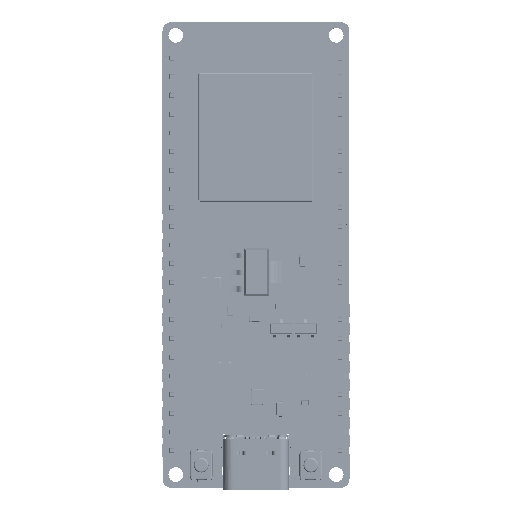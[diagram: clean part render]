
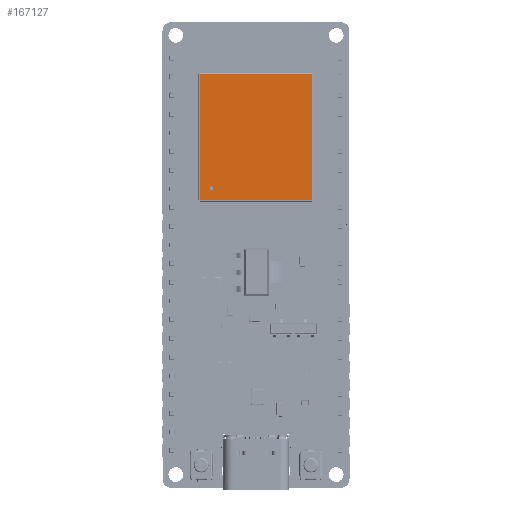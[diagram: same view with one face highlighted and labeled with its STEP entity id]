
A CAD part, top view. The second image highlights one B-rep face of the part: STEP entity #167127.
In plain terms, the highlighted planar face has unit normal (0, 0, 1).
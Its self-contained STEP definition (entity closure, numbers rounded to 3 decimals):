
#166013=CARTESIAN_POINT('',(-6.03,-6.91,2.3));
#166014=DIRECTION('',(0.,0.,-1.));
#166015=DIRECTION('',(-1.,0.,0.));
#166016=AXIS2_PLACEMENT_3D('',#166013,#166014,#166015);
#166021=CARTESIAN_POINT('',(-6.03,-6.91,2.3));
#166022=DIRECTION('',(0.,0.,-1.));
#166023=DIRECTION('',(1.,0.,0.));
#166024=AXIS2_PLACEMENT_3D('',#166021,#166022,#166023);
#166029=DIRECTION('',(1.,0.,0.));
#166030=VECTOR('',#166029,15.3);
#166031=CARTESIAN_POINT('',(-7.65,8.55,2.3));
#166032=LINE('',#166031,#166030);
#166491=DIRECTION('',(0.,1.,0.));
#166492=VECTOR('',#166491,17.1);
#166493=CARTESIAN_POINT('',(-7.65,-8.55,2.3));
#166494=LINE('',#166493,#166492);
#166588=DIRECTION('',(-1.,0.,0.));
#166589=VECTOR('',#166588,15.3);
#166590=CARTESIAN_POINT('',(7.65,-8.55,2.3));
#166591=LINE('',#166590,#166589);
#166715=DIRECTION('',(0.,-1.,0.));
#166716=VECTOR('',#166715,17.1);
#166717=CARTESIAN_POINT('',(7.65,8.55,2.3));
#166718=LINE('',#166717,#166716);
#166922=CARTESIAN_POINT('',(-5.78,-6.91,2.3));
#166924=VERTEX_POINT('',#166922);
#166926=CARTESIAN_POINT('',(-6.28,-6.91,2.3));
#166927=VERTEX_POINT('',#166926);
#167012=CARTESIAN_POINT('',(-7.65,8.55,2.3));
#167013=CARTESIAN_POINT('',(7.65,8.55,2.3));
#167014=VERTEX_POINT('',#167012);
#167015=VERTEX_POINT('',#167013);
#167016=CARTESIAN_POINT('',(-7.65,-8.55,2.3));
#167017=VERTEX_POINT('',#167016);
#167018=CARTESIAN_POINT('',(7.65,-8.55,2.3));
#167019=VERTEX_POINT('',#167018);
#167108=CARTESIAN_POINT('',(0.,0.,2.3));
#167109=DIRECTION('',(0.,0.,1.));
#167110=DIRECTION('',(1.,0.,0.));
#167111=AXIS2_PLACEMENT_3D('',#167108,#167109,#167110);
#167112=PLANE('',#167111);
#167114=ORIENTED_EDGE('',*,*,#167113,.T.);
#167116=ORIENTED_EDGE('',*,*,#167115,.T.);
#167118=ORIENTED_EDGE('',*,*,#167117,.T.);
#167120=ORIENTED_EDGE('',*,*,#167119,.T.);
#167121=EDGE_LOOP('',(#167114,#167116,#167118,#167120));
#167122=FACE_OUTER_BOUND('',#167121,.F.);
#167123=ORIENTED_EDGE('',*,*,#167099,.F.);
#167124=ORIENTED_EDGE('',*,*,#167085,.F.);
#167125=EDGE_LOOP('',(#167123,#167124));
#167126=FACE_BOUND('',#167125,.F.);
#167127=ADVANCED_FACE('',(#167122,#167126),#167112,.T.);
#166017=CIRCLE('',#166016,0.25);
#166025=CIRCLE('',#166024,0.25);
#167085=EDGE_CURVE('',#166924,#166927,#166025,.T.);
#167099=EDGE_CURVE('',#166927,#166924,#166017,.T.);
#167113=EDGE_CURVE('',#167014,#167015,#166032,.T.);
#167115=EDGE_CURVE('',#167015,#167019,#166718,.T.);
#167117=EDGE_CURVE('',#167019,#167017,#166591,.T.);
#167119=EDGE_CURVE('',#167017,#167014,#166494,.T.);
